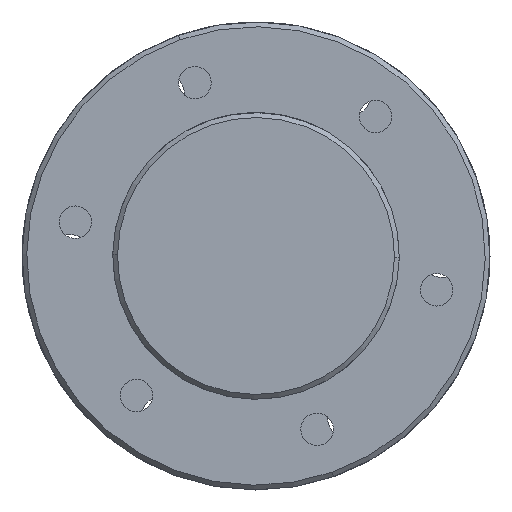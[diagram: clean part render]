
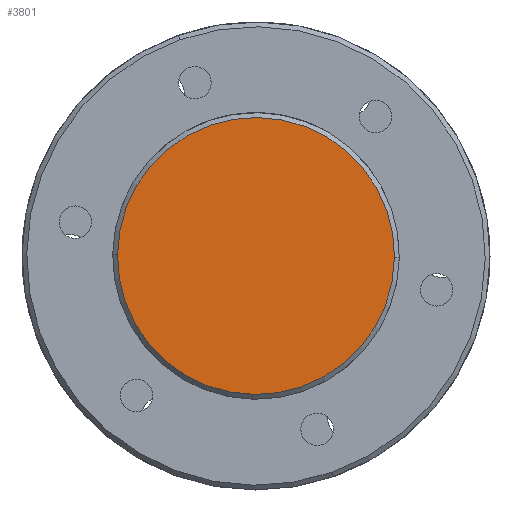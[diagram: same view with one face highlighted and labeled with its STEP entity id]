
A CAD part, left-side view. The second image highlights one B-rep face of the part: STEP entity #3801.
In plain terms, the highlighted planar face has unit normal (-1, 0, 0).
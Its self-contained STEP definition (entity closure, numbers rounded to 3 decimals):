
#586 = DIRECTION ( 'NONE',  ( -1., 0., 0. ) ) ;
#1053 = PLANE ( 'NONE',  #11460 ) ;
#3674 = VERTEX_POINT ( 'NONE', #17801 ) ;
#3801 = ADVANCED_FACE ( 'NONE', ( #4021 ), #1053, .F. ) ;
#4021 = FACE_OUTER_BOUND ( 'NONE', #19783, .T. ) ;
#5979 = DIRECTION ( 'NONE',  ( -1., 0., 0. ) ) ;
#6520 = AXIS2_PLACEMENT_3D ( 'NONE', #15247, #586, #13950 ) ;
#7466 = CARTESIAN_POINT ( 'NONE',  ( 0., 0., -29. ) ) ;
#7502 = ORIENTED_EDGE ( 'NONE', *, *, #12105, .T. ) ;
#7728 = DIRECTION ( 'NONE',  ( 0., 0., -1. ) ) ;
#8966 = CIRCLE ( 'NONE', #6520, 29. ) ;
#10492 = ORIENTED_EDGE ( 'NONE', *, *, #14013, .T. ) ;
#10855 = DIRECTION ( 'NONE',  ( 1., 0., 0. ) ) ;
#11299 = CIRCLE ( 'NONE', #13371, 29. ) ;
#11460 = AXIS2_PLACEMENT_3D ( 'NONE', #17273, #10855, #7728 ) ;
#12105 = EDGE_CURVE ( 'NONE', #16357, #3674, #11299, .T. ) ;
#13371 = AXIS2_PLACEMENT_3D ( 'NONE', #15849, #5979, #17838 ) ;
#13950 = DIRECTION ( 'NONE',  ( 0., 0., -1. ) ) ;
#14013 = EDGE_CURVE ( 'NONE', #3674, #16357, #8966, .T. ) ;
#15247 = CARTESIAN_POINT ( 'NONE',  ( 0., 0., 0. ) ) ;
#15849 = CARTESIAN_POINT ( 'NONE',  ( 0., 0., 0. ) ) ;
#16357 = VERTEX_POINT ( 'NONE', #7466 ) ;
#17273 = CARTESIAN_POINT ( 'NONE',  ( 0., 0., 0. ) ) ;
#17801 = CARTESIAN_POINT ( 'NONE',  ( 0., 0., 29. ) ) ;
#17838 = DIRECTION ( 'NONE',  ( 0., 0., -1. ) ) ;
#19783 = EDGE_LOOP ( 'NONE', ( #7502, #10492 ) ) ;
